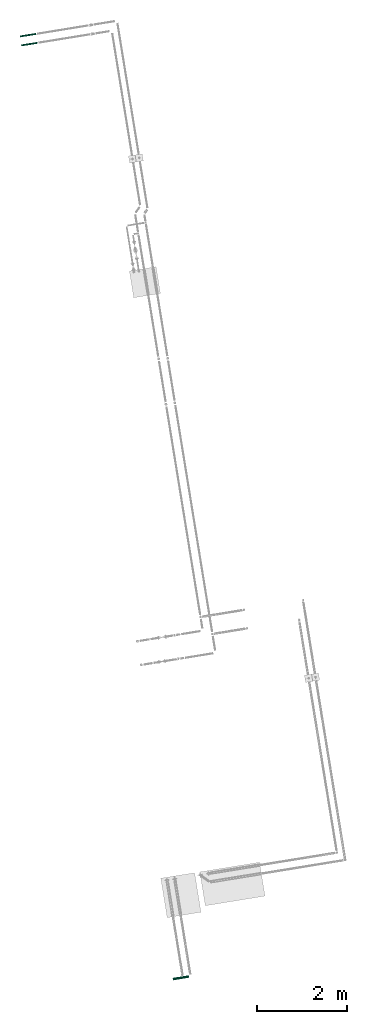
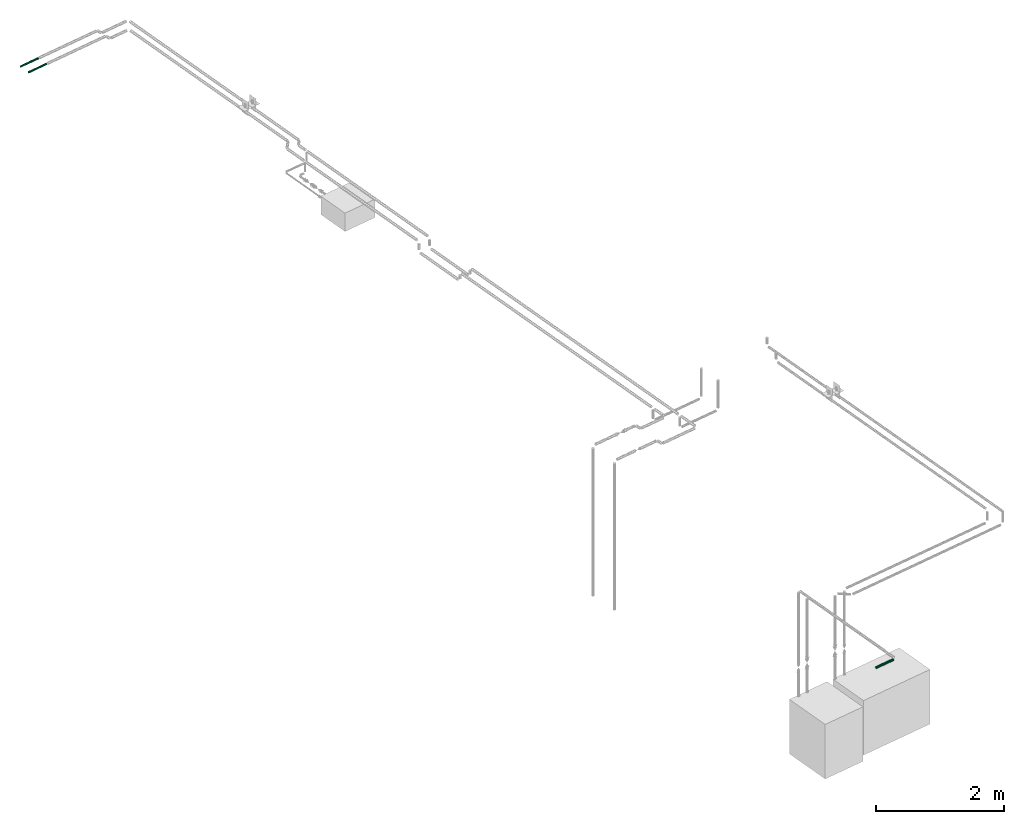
# One storey, part 9 of 10: 3 flow segments.
"""IFC2X3 building model written with IfcOpenShell, lengths in millimetres."""

from ifc_helpers import new_model, entity, si_unit, converted_unit, derived_unit, direction, frame, origin, origin_with_axes, place, context, subcontext, project, spatial, faceted_brep, type_object, element, save


model = new_model("IFC2X3")

# Units and contexts
plan_context = context("Plan", 3, precision=1e-05, world=origin_with_axes())
model_context = context("Model", 3, precision=0.01, world=origin(), true_north=direction((6.12323399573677e-17, 1.0)))
body_context = subcontext(model_context, "Body", "Model", "MODEL_VIEW")
ifc_project = project(units=[converted_unit("PLANEANGLEUNIT", "DEGREE", entity("IfcPositiveLengthMeasure", 0.0174532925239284), si_unit("PLANEANGLEUNIT", "RADIAN"), dimensions=[0, 0, 0, 0, 0, 0, 0]), si_unit("AREAUNIT", "SQUARE_METRE"), si_unit("LENGTHUNIT", "METRE", prefix="MILLI"), si_unit("MASSUNIT", "GRAM", prefix="KILO"), si_unit("POWERUNIT", "WATT"), si_unit("PRESSUREUNIT", "PASCAL", prefix="KILO"), si_unit("FORCEUNIT", "NEWTON", prefix="KILO"), si_unit("ELECTRICVOLTAGEUNIT", "VOLT"), si_unit("ELECTRICCURRENTUNIT", "AMPERE"), si_unit("THERMODYNAMICTEMPERATUREUNIT", "DEGREE_CELSIUS"), si_unit("TIMEUNIT", "SECOND"), si_unit("VOLUMEUNIT", "CUBIC_METRE"), derived_unit("LINEARVELOCITYUNIT", [(si_unit("LENGTHUNIT", "METRE"), 1), (si_unit("TIMEUNIT", "SECOND"), -1)]), derived_unit("VOLUMETRICFLOWRATEUNIT", [(si_unit("VOLUMEUNIT", "CUBIC_METRE"), 1), (si_unit("TIMEUNIT", "SECOND"), -1)]), derived_unit("THERMALTRANSMITTANCEUNIT", [(si_unit("POWERUNIT", "WATT"), 1), (si_unit("THERMODYNAMICTEMPERATUREUNIT", "KELVIN"), -1), (si_unit("AREAUNIT", "SQUARE_METRE"), -1)]), derived_unit("SOUNDPRESSUREUNIT", [(si_unit("PRESSUREUNIT", "PASCAL"), 1)])], contexts=[model_context, plan_context])

# Site, building, storey
site_placement = place(None, frame((-0.00071070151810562, 0.00438415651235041, 0.0), z_axis=(0.0, 0.0, 1.0), x_axis=(-0.160236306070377, 0.987078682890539, 0.0)))
site = spatial("IfcSite", under=ifc_project, at=site_placement, Name="Default", CompositionType="ELEMENT")
building_placement = place(site_placement, origin_with_axes())
building = spatial("IfcBuilding", under=site, at=building_placement, CompositionType="ELEMENT")
storey_placement = place(building_placement, frame((0.0, 0.0, 58999.9999999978), z_axis=(0.0, 0.0, 1.0), x_axis=(1.0, 0.0, 0.0)))
storey = spatial("IfcBuildingStorey", under=building, at=storey_placement, Name="Nivå F", CompositionType="ELEMENT", Elevation=58999.9999999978)

# Flow segments
pipe_segment_type = type_object("IfcPipeSegmentType", Name="Pipe Types:Stålrør syrefast AISI 316", PredefinedType="NOTDEFINED")
flow_segment_1_placement = place(storey_placement, origin_with_axes())
element("IfcFlowSegment", 1, at=flow_segment_1_placement, inside=storey, type_object=pipe_segment_type, Name="Pipe Types:Stålrør syrefast AISI 316", ObjectType="Pipe Types:Stålrør syrefast AISI 316", context=body_context, shape_type="Brep", body=[
    faceted_brep([(785555.266864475, -500902.480498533, 2902.31820324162), (785555.469680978, -500902.480498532, 2900.0), (785555.469680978, -501257.88028229, 2900.0), (785555.266864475, -501257.88028229, 2902.31820324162), (785555.266864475, -500902.480498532, 2897.68179675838), (785555.266864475, -501257.88028229, 2897.68179675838), (785554.664577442, -500902.480498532, 2895.43403094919), (785554.664577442, -501257.88028229, 2895.43403094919), (785553.681120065, -500902.480498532, 2893.32499979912), (785553.681120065, -501257.88028229, 2893.32499979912), (785552.3463742, -500902.480498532, 2891.41878515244), (785552.3463742, -501257.88028229, 2891.41878515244), (785550.700895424, -500902.480498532, 2889.77330637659), (785550.700895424, -501257.88028229, 2889.77330637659), (785548.794680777, -500902.480498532, 2888.43856051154), (785548.794680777, -501257.88028229, 2888.43856051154), (785546.685649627, -500902.480498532, 2887.45510313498), (785546.685649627, -501257.88028229, 2887.45510313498), (785544.437883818, -500902.480498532, 2886.85281610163), (785544.437883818, -501257.88028229, 2886.85281610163), (785542.119680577, -500902.480498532, 2886.64999959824), (785542.119680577, -501257.88028229, 2886.64999959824), (785539.801477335, -500902.480498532, 2886.85281610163), (785539.801477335, -501257.88028229, 2886.85281610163), (785537.553711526, -500902.480498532, 2887.45510313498), (785537.553711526, -501257.88028229, 2887.45510313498), (785535.444680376, -500902.480498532, 2888.43856051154), (785535.444680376, -501257.88028229, 2888.43856051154), (785533.538465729, -500902.480498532, 2889.77330637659), (785533.538465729, -501257.88028229, 2889.77330637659), (785531.892986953, -500902.480498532, 2891.41878515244), (785531.892986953, -501257.88028229, 2891.41878515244), (785530.558241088, -500902.480498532, 2893.32499979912), (785530.558241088, -501257.88028229, 2893.32499979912), (785529.574783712, -500902.480498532, 2895.43403094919), (785529.574783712, -501257.88028229, 2895.43403094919), (785528.972496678, -500902.480498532, 2897.68179675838), (785528.972496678, -501257.88028229, 2897.68179675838), (785528.769680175, -500902.480498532, 2900.0), (785528.769680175, -501257.88028229, 2900.0), (785528.972496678, -500902.480498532, 2902.31820324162), (785528.972496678, -501257.88028229, 2902.31820324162), (785529.574783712, -500902.480498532, 2904.56596905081), (785529.574783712, -501257.88028229, 2904.56596905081), (785530.558241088, -500902.480498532, 2906.67500020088), (785530.558241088, -501257.88028229, 2906.67500020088), (785531.892986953, -500902.480498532, 2908.58121484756), (785531.892986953, -501257.88028229, 2908.58121484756), (785533.538465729, -500902.480498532, 2910.22669362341), (785533.538465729, -501257.88028229, 2910.22669362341), (785535.444680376, -500902.480498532, 2911.56143948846), (785535.444680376, -501257.88028229, 2911.56143948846), (785537.553711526, -500902.480498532, 2912.54489686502), (785537.553711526, -501257.88028229, 2912.54489686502), (785539.801477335, -500902.480498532, 2913.14718389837), (785539.801477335, -501257.88028229, 2913.14718389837), (785542.119680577, -500902.480498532, 2913.35000040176), (785542.119680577, -501257.88028229, 2913.35000040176), (785544.437883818, -500902.480498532, 2913.14718389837), (785544.437883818, -501257.88028229, 2913.14718389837), (785546.685649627, -500902.480498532, 2912.54489686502), (785546.685649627, -501257.88028229, 2912.54489686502), (785548.794680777, -500902.480498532, 2911.56143948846), (785548.794680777, -501257.88028229, 2911.56143948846), (785550.700895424, -500902.480498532, 2910.22669362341), (785550.700895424, -501257.88028229, 2910.22669362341), (785552.3463742, -500902.480498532, 2908.58121484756), (785552.3463742, -501257.88028229, 2908.58121484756), (785553.681120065, -500902.480498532, 2906.67500020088), (785553.681120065, -501257.88028229, 2906.67500020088), (785554.664577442, -500902.480498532, 2904.56596905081), (785554.664577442, -501257.88028229, 2904.56596905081)], [[[0, 1, 2, 3]], [[1, 4, 5, 2]], [[4, 6, 7, 5]], [[6, 8, 9, 7]], [[8, 10, 11, 9]], [[10, 12, 13, 11]], [[12, 14, 15, 13]], [[14, 16, 17, 15]], [[16, 18, 19, 17]], [[18, 20, 21, 19]], [[20, 22, 23, 21]], [[22, 24, 25, 23]], [[24, 26, 27, 25]], [[26, 28, 29, 27]], [[28, 30, 31, 29]], [[30, 32, 33, 31]], [[32, 34, 35, 33]], [[34, 36, 37, 35]], [[36, 38, 39, 37]], [[38, 40, 41, 39]], [[40, 42, 43, 41]], [[42, 44, 45, 43]], [[44, 46, 47, 45]], [[46, 48, 49, 47]], [[48, 50, 51, 49]], [[50, 52, 53, 51]], [[52, 54, 55, 53]], [[54, 56, 57, 55]], [[56, 58, 59, 57]], [[58, 60, 61, 59]], [[60, 62, 63, 61]], [[62, 64, 65, 63]], [[64, 66, 67, 65]], [[66, 68, 69, 67]], [[68, 70, 71, 69]], [[70, 0, 3, 71]], [[3, 2, 5, 7, 9, 11, 13, 15, 17, 19, 21, 23, 25, 27, 29, 31, 33, 35, 37, 39, 41, 43, 45, 47, 49, 51, 53, 55, 57, 59, 61, 63, 65, 67, 69, 71]], [[70, 68, 66, 64, 62, 60, 58, 56, 54, 52, 50, 48, 46, 44, 42, 40, 38, 36, 34, 32, 30, 28, 26, 24, 22, 20, 18, 16, 14, 12, 10, 8, 6, 4, 1, 0]]], orient=[[False], [False], [False], [False], [False], [False], [False], [False], [False], [False], [False], [False], [False], [False], [False], [False], [False], [False], [False], [False], [False], [False], [False], [False], [False], [False], [False], [False], [False], [False], [False], [False], [False], [False], [False], [False], [False], [False]]),
])
flow_segment_2_placement = place(storey_placement, origin_with_axes())
element("IfcFlowSegment", 2, at=flow_segment_2_placement, inside=storey, type_object=pipe_segment_type, Name="Pipe Types:Stålrør syrefast AISI 316", ObjectType="Pipe Types:Stålrør syrefast AISI 316", context=body_context, shape_type="Brep", body=[
    faceted_brep([(785355.266864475, -500902.480498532, 2902.31820324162), (785355.469680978, -500902.480498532, 2900.0), (785355.469680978, -501257.88028229, 2900.0), (785355.266864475, -501257.88028229, 2902.31820324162), (785355.266864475, -500902.480498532, 2897.68179675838), (785355.266864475, -501257.88028229, 2897.68179675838), (785354.664577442, -500902.480498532, 2895.43403094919), (785354.664577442, -501257.88028229, 2895.43403094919), (785353.681120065, -500902.480498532, 2893.32499979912), (785353.681120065, -501257.88028229, 2893.32499979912), (785352.3463742, -500902.480498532, 2891.41878515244), (785352.3463742, -501257.88028229, 2891.41878515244), (785350.700895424, -500902.480498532, 2889.77330637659), (785350.700895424, -501257.88028229, 2889.77330637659), (785348.794680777, -500902.480498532, 2888.43856051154), (785348.794680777, -501257.88028229, 2888.43856051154), (785346.685649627, -500902.480498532, 2887.45510313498), (785346.685649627, -501257.88028229, 2887.45510313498), (785344.437883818, -500902.480498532, 2886.85281610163), (785344.437883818, -501257.88028229, 2886.85281610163), (785342.119680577, -500902.480498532, 2886.64999959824), (785342.119680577, -501257.88028229, 2886.64999959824), (785339.801477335, -500902.480498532, 2886.85281610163), (785339.801477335, -501257.88028229, 2886.85281610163), (785337.553711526, -500902.480498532, 2887.45510313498), (785337.553711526, -501257.88028229, 2887.45510313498), (785335.444680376, -500902.480498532, 2888.43856051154), (785335.444680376, -501257.88028229, 2888.43856051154), (785333.538465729, -500902.480498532, 2889.77330637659), (785333.538465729, -501257.88028229, 2889.77330637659), (785331.892986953, -500902.480498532, 2891.41878515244), (785331.892986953, -501257.88028229, 2891.41878515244), (785330.558241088, -500902.480498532, 2893.32499979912), (785330.558241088, -501257.88028229, 2893.32499979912), (785329.574783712, -500902.480498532, 2895.43403094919), (785329.574783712, -501257.88028229, 2895.43403094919), (785328.972496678, -500902.480498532, 2897.68179675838), (785328.972496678, -501257.88028229, 2897.68179675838), (785328.769680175, -500902.480498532, 2900.0), (785328.769680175, -501257.88028229, 2900.0), (785328.972496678, -500902.480498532, 2902.31820324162), (785328.972496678, -501257.88028229, 2902.31820324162), (785329.574783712, -500902.480498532, 2904.56596905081), (785329.574783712, -501257.88028229, 2904.56596905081), (785330.558241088, -500902.480498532, 2906.67500020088), (785330.558241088, -501257.88028229, 2906.67500020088), (785331.892986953, -500902.480498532, 2908.58121484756), (785331.892986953, -501257.88028229, 2908.58121484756), (785333.538465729, -500902.480498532, 2910.22669362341), (785333.538465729, -501257.88028229, 2910.22669362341), (785335.444680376, -500902.480498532, 2911.56143948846), (785335.444680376, -501257.88028229, 2911.56143948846), (785337.553711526, -500902.480498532, 2912.54489686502), (785337.553711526, -501257.88028229, 2912.54489686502), (785339.801477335, -500902.480498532, 2913.14718389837), (785339.801477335, -501257.88028229, 2913.14718389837), (785342.119680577, -500902.480498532, 2913.35000040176), (785342.119680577, -501257.88028229, 2913.35000040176), (785344.437883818, -500902.480498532, 2913.14718389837), (785344.437883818, -501257.88028229, 2913.14718389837), (785346.685649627, -500902.480498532, 2912.54489686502), (785346.685649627, -501257.88028229, 2912.54489686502), (785348.794680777, -500902.480498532, 2911.56143948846), (785348.794680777, -501257.88028229, 2911.56143948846), (785350.700895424, -500902.480498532, 2910.22669362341), (785350.700895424, -501257.88028229, 2910.22669362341), (785352.3463742, -500902.480498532, 2908.58121484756), (785352.3463742, -501257.88028229, 2908.58121484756), (785353.681120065, -500902.480498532, 2906.67500020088), (785353.681120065, -501257.88028229, 2906.67500020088), (785354.664577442, -500902.480498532, 2904.56596905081), (785354.664577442, -501257.88028229, 2904.56596905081)], [[[0, 1, 2, 3]], [[1, 4, 5, 2]], [[4, 6, 7, 5]], [[6, 8, 9, 7]], [[8, 10, 11, 9]], [[10, 12, 13, 11]], [[12, 14, 15, 13]], [[14, 16, 17, 15]], [[16, 18, 19, 17]], [[18, 20, 21, 19]], [[20, 22, 23, 21]], [[22, 24, 25, 23]], [[24, 26, 27, 25]], [[26, 28, 29, 27]], [[28, 30, 31, 29]], [[30, 32, 33, 31]], [[32, 34, 35, 33]], [[34, 36, 37, 35]], [[36, 38, 39, 37]], [[38, 40, 41, 39]], [[40, 42, 43, 41]], [[42, 44, 45, 43]], [[44, 46, 47, 45]], [[46, 48, 49, 47]], [[48, 50, 51, 49]], [[50, 52, 53, 51]], [[52, 54, 55, 53]], [[54, 56, 57, 55]], [[56, 58, 59, 57]], [[58, 60, 61, 59]], [[60, 62, 63, 61]], [[62, 64, 65, 63]], [[64, 66, 67, 65]], [[66, 68, 69, 67]], [[68, 70, 71, 69]], [[70, 0, 3, 71]], [[3, 2, 5, 7, 9, 11, 13, 15, 17, 19, 21, 23, 25, 27, 29, 31, 33, 35, 37, 39, 41, 43, 45, 47, 49, 51, 53, 55, 57, 59, 61, 63, 65, 67, 69, 71]], [[70, 68, 66, 64, 62, 60, 58, 56, 54, 52, 50, 48, 46, 44, 42, 40, 38, 36, 34, 32, 30, 28, 26, 24, 22, 20, 18, 16, 14, 12, 10, 8, 6, 4, 1, 0]]], orient=[[False], [False], [False], [False], [False], [False], [False], [False], [False], [False], [False], [False], [False], [False], [False], [False], [False], [False], [False], [False], [False], [False], [False], [False], [False], [False], [False], [False], [False], [False], [False], [False], [False], [False], [False], [False], [False], [False]]),
])
flow_segment_3_placement = place(storey_placement, origin_with_axes())
element("IfcFlowSegment", 3, at=flow_segment_3_placement, inside=storey, type_object=pipe_segment_type, Name="Pipe Types:Stålrør syrefast AISI 316", ObjectType="Pipe Types:Stålrør syrefast AISI 316", context=body_context, shape_type="Brep", body=[
    faceted_brep([(764432.846514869, -500902.480498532, 2903.68134150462), (764433.168590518, -500902.480498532, 2900.0), (764433.168590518, -501250.664801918, 2900.0), (764432.846514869, -501250.664801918, 2903.68134150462), (764432.846514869, -500902.480498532, 2896.31865849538), (764432.846514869, -501250.664801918, 2896.31865849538), (764431.89007403, -500902.480498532, 2892.74917268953), (764431.89007403, -501250.664801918, 2892.74917268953), (764430.328328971, -500902.480498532, 2889.39999960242), (764430.328328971, -501250.664801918, 2889.39999960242), (764428.208732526, -500902.480498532, 2886.37290216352), (764428.208732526, -501250.664801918, 2886.37290216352), (764425.595687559, -500902.480498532, 2883.75985719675), (764425.595687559, -501250.664801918, 2883.75985719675), (764422.56859012, -500902.480498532, 2881.64026075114), (764422.56859012, -501250.664801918, 2881.64026075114), (764419.219417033, -500902.480498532, 2880.07851569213), (764419.219417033, -501250.664801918, 2880.07851569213), (764415.649931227, -500902.480498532, 2879.12207485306), (764415.649931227, -501250.664801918, 2879.12207485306), (764411.968589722, -500902.480498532, 2878.79999920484), (764411.968589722, -501250.664801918, 2878.79999920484), (764408.287248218, -500902.480498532, 2879.12207485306), (764408.287248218, -501250.664801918, 2879.12207485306), (764404.717762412, -500902.480498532, 2880.07851569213), (764404.717762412, -501250.664801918, 2880.07851569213), (764401.368589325, -500902.480498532, 2881.64026075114), (764401.368589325, -501250.664801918, 2881.64026075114), (764398.341491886, -500902.480498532, 2883.75985719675), (764398.341491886, -501250.664801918, 2883.75985719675), (764395.728446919, -500902.480498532, 2886.37290216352), (764395.728446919, -501250.664801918, 2886.37290216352), (764393.608850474, -500902.480498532, 2889.39999960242), (764393.608850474, -501250.664801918, 2889.39999960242), (764392.047105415, -500902.480498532, 2892.74917268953), (764392.047105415, -501250.664801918, 2892.74917268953), (764391.090664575, -500902.480498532, 2896.31865849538), (764391.090664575, -501250.664801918, 2896.31865849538), (764390.768588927, -500902.480498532, 2900.0), (764390.768588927, -501250.664801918, 2900.0), (764391.090664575, -500902.480498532, 2903.68134150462), (764391.090664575, -501250.664801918, 2903.68134150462), (764392.047105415, -500902.480498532, 2907.25082731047), (764392.047105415, -501250.664801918, 2907.25082731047), (764393.608850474, -500902.480498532, 2910.60000039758), (764393.608850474, -501250.664801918, 2910.60000039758), (764395.728446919, -500902.480498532, 2913.62709783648), (764395.728446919, -501250.664801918, 2913.62709783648), (764398.341491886, -500902.480498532, 2916.24014280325), (764398.341491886, -501250.664801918, 2916.24014280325), (764401.368589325, -500902.480498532, 2918.35973924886), (764401.368589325, -501250.664801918, 2918.35973924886), (764404.717762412, -500902.480498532, 2919.92148430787), (764404.717762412, -501250.664801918, 2919.92148430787), (764408.287248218, -500902.480498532, 2920.87792514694), (764408.287248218, -501250.664801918, 2920.87792514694), (764411.968589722, -500902.480498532, 2921.20000079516), (764411.968589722, -501250.664801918, 2921.20000079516), (764415.649931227, -500902.480498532, 2920.87792514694), (764415.649931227, -501250.664801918, 2920.87792514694), (764419.219417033, -500902.480498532, 2919.92148430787), (764419.219417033, -501250.664801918, 2919.92148430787), (764422.56859012, -500902.480498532, 2918.35973924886), (764422.56859012, -501250.664801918, 2918.35973924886), (764425.595687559, -500902.480498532, 2916.24014280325), (764425.595687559, -501250.664801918, 2916.24014280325), (764428.208732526, -500902.480498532, 2913.62709783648), (764428.208732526, -501250.664801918, 2913.62709783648), (764430.328328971, -500902.480498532, 2910.60000039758), (764430.328328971, -501250.664801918, 2910.60000039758), (764431.89007403, -500902.480498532, 2907.25082731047), (764431.89007403, -501250.664801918, 2907.25082731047)], [[[0, 1, 2, 3]], [[1, 4, 5, 2]], [[4, 6, 7, 5]], [[6, 8, 9, 7]], [[8, 10, 11, 9]], [[10, 12, 13, 11]], [[12, 14, 15, 13]], [[14, 16, 17, 15]], [[16, 18, 19, 17]], [[18, 20, 21, 19]], [[20, 22, 23, 21]], [[22, 24, 25, 23]], [[24, 26, 27, 25]], [[26, 28, 29, 27]], [[28, 30, 31, 29]], [[30, 32, 33, 31]], [[32, 34, 35, 33]], [[34, 36, 37, 35]], [[36, 38, 39, 37]], [[38, 40, 41, 39]], [[40, 42, 43, 41]], [[42, 44, 45, 43]], [[44, 46, 47, 45]], [[46, 48, 49, 47]], [[48, 50, 51, 49]], [[50, 52, 53, 51]], [[52, 54, 55, 53]], [[54, 56, 57, 55]], [[56, 58, 59, 57]], [[58, 60, 61, 59]], [[60, 62, 63, 61]], [[62, 64, 65, 63]], [[64, 66, 67, 65]], [[66, 68, 69, 67]], [[68, 70, 71, 69]], [[70, 0, 3, 71]], [[3, 2, 5, 7, 9, 11, 13, 15, 17, 19, 21, 23, 25, 27, 29, 31, 33, 35, 37, 39, 41, 43, 45, 47, 49, 51, 53, 55, 57, 59, 61, 63, 65, 67, 69, 71]], [[70, 68, 66, 64, 62, 60, 58, 56, 54, 52, 50, 48, 46, 44, 42, 40, 38, 36, 34, 32, 30, 28, 26, 24, 22, 20, 18, 16, 14, 12, 10, 8, 6, 4, 1, 0]]], orient=[[False], [False], [False], [False], [False], [False], [False], [False], [False], [False], [False], [False], [False], [False], [False], [False], [False], [False], [False], [False], [False], [False], [False], [False], [False], [False], [False], [False], [False], [False], [False], [False], [False], [False], [False], [False], [False], [False]]),
])

save(model, "model.ifc")
